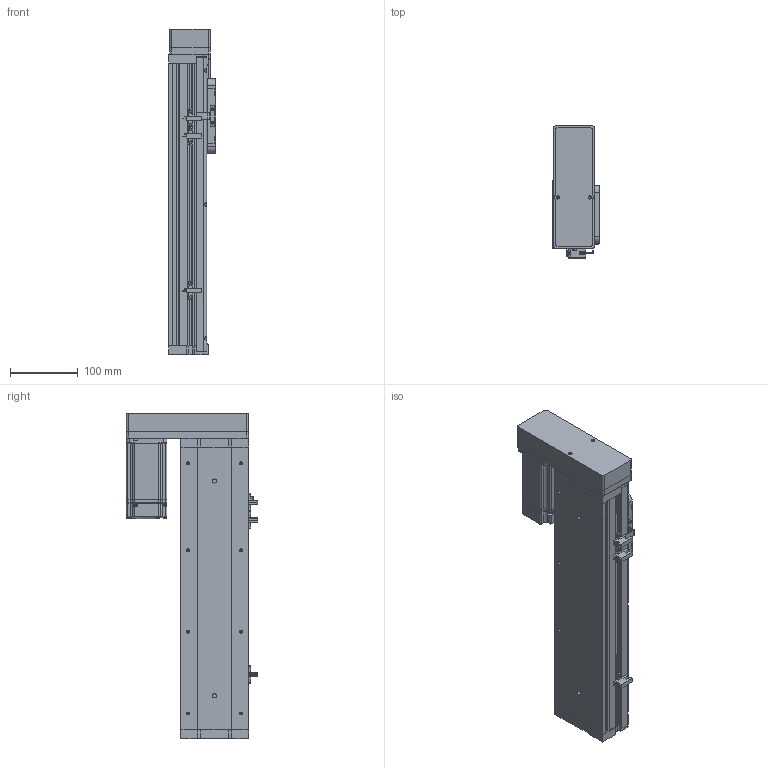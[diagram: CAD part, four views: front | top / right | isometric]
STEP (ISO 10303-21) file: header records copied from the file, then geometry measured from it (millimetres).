
FILE_DESCRIPTION (( 'STEP AP214' ), '1' );
FILE_NAME ('KSD100S-S250-ML-CR.STEP', '2019-09-02T08:01:50', ( '微软用户' ), ( '微软中国' ), 'SwSTEP 2.0', 'SolidWorks 2014', '' );
FILE_SCHEMA (( 'AUTOMOTIVE_DESIGN' ));
Length unit declared in the file: millimetre
Products named in the file (14): U倰嫖萇EEㄜSX672; 感应片100宽全封闭; 100宽马达安装板全封闭; 100宽端板全封闭; 100宽滚珠螺姆安装板1防护罩; 100宽滚珠螺姆安装板1; 100遵裔啣揤啣; 100遵裔啣250俴最; 100遵耜啣250俴最佪裝; 100宽底板全封闭250行程丝杆; KSD100S-S250-ML-CR; MHMD042G1CA_2_03; 悵誘欶酘衵殏; 100宽马达安装板连板左右折丝杆
Assembly tree (17 placements, depth 2):
  KSD100S-S250-ML-CR
    100宽底板全封闭250行程丝杆
    100遵耜啣250俴最佪裝  x2
    100遵裔啣250俴最
    100遵裔啣揤啣  x2
    100宽滚珠螺姆安装板1
    100宽滚珠螺姆安装板1防护罩
    100宽端板全封闭
    100宽马达安装板全封闭
    感应片100宽全封闭
    U倰嫖萇EEㄜSX672  x3
    100宽马达安装板连板左右折丝杆
    悵誘欶酘衵殏
    MHMD042G1CA_2_03
Bounding box: 70 x 193.7 x 478.5 mm (x, y, z)
Volume: 1094035.3 mm3; surface area: 520501.9 mm2
Topology: 16 solids, 17 shells, 1553 faces, 4318 edges, 2778 vertices
Faces by surface type: plane 695, cylinder 655, cone 185, bspline 18
Entity records: 51500 total; most frequent: CARTESIAN_POINT 7984, DIRECTION 7369, ORIENTED_EDGE 6840, EDGE_CURVE 3492, AXIS2_PLACEMENT_3D 2611, VERTEX_POINT 2316, VECTOR 2147, LINE 2147
